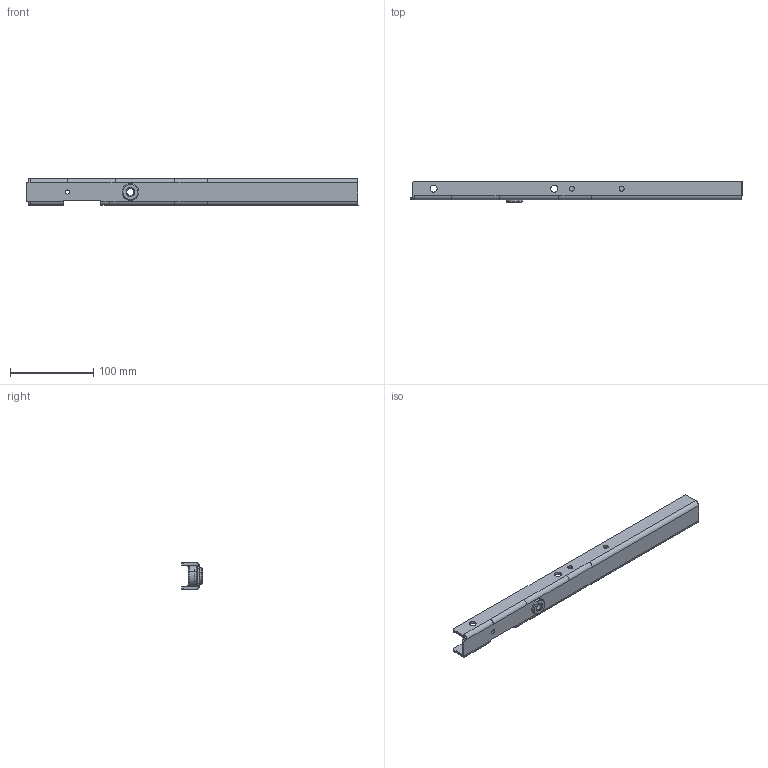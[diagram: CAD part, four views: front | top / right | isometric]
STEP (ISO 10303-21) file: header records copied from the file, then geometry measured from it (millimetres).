
FILE_DESCRIPTION(('CATIA V5 STEP Exchange'),'2;1');
FILE_NAME('C:\Users\nobody\Desktop\SHT0017091_B.stp','2025-06-12T00:50:22+00:00',('none'),('none'),'CATIA Version 5 Release 20 GA (IN-10)','CATIA V5 STEP AP203 Edition 2','none');
FILE_SCHEMA(('AP203_CONFIGURATION_CONTROLLED_3D_DESIGN_OF_MECHANICAL_PARTS_AND_ASSEMBLIES_MIM_LF { 1 0 10303 403 2 1 2}'));
Length unit declared in the file: millimetre
Products named in the file (4): SHT0017091; SHT0017066; SLT0010269; SHT0017091-H
Assembly tree (3 placements, depth 2):
  SHT0017091
    SHT0017066
    SLT0010269
    SHT0017091-H
Bounding box: 399 x 25 x 32 mm (x, y, z)
Volume: 80236 mm3; surface area: 56355.4 mm2
Topology: 6 solids, 6 shells, 154 faces, 420 edges, 279 vertices
Faces by surface type: cylinder 79, plane 54, cone 16, revolution 3, extrusion 2
Entity records: 5214 total; most frequent: CARTESIAN_POINT 1149, ORIENTED_EDGE 840, DIRECTION 670, EDGE_CURVE 420, AXIS2_PLACEMENT_3D 289, VERTEX_POINT 279, VECTOR 238, LINE 236
